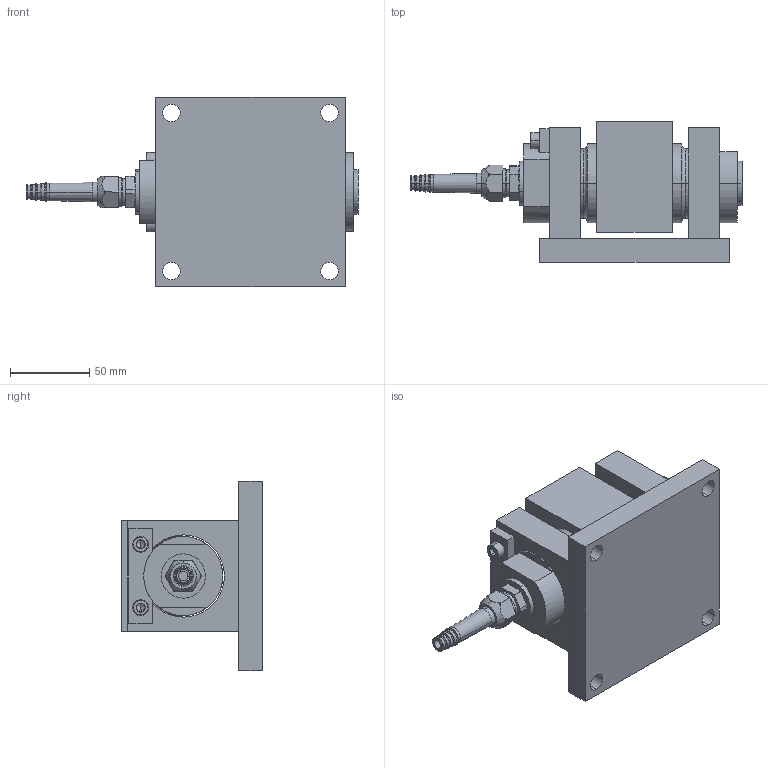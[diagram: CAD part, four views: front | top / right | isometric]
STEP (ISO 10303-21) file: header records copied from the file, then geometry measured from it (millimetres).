
FILE_DESCRIPTION (( 'STEP AP214' ), '1' );
FILE_NAME ('KOM-1 100 kN Module.STEP', '2021-03-15T10:00:11', ( '' ), ( '' ), 'SwSTEP 2.0', 'SolidWorks 2021', '' );
FILE_SCHEMA (( 'AUTOMOTIVE_DESIGN' ));
Length unit declared in the file: millimetre
Products named in the file (10): KOM-1 100 kN Module; 4095971r4; M6x16 Insex; M26x1.5 - Lock - 600490r1; 6408213r1  Låsbleck KOM-1 10-100 kN; KOSD-40  100 kN; 5207861r1 Fäste KOM-1 100 kN; 5207862r2  Ok KOM-1  100 kN; pg 9 kabelförskruvning; M26x1.5 - Pg9 - 6369829
Assembly tree (10 placements, depth 3):
  KOM-1 100 kN Module
    5207861r1 Fäste KOM-1 100 kN
    5207862r2  Ok KOM-1  100 kN
    M6x16 Insex  x2
    KOSD-40  100 kN
      4095971r4
      M26x1.5 - Pg9 - 6369829
      M26x1.5 - Lock - 600490r1
      pg 9 kabelförskruvning
    6408213r1  Låsbleck KOM-1 10-100 kN
Bounding box: 210 x 89 x 120 mm (x, y, z)
Volume: 712879.2 mm3; surface area: 131983 mm2
Topology: 9 solids, 12 shells, 332 faces, 732 edges, 441 vertices
Faces by surface type: plane 113, cylinder 99, cone 72, bspline 30, torus 18
Entity records: 10308 total; most frequent: CARTESIAN_POINT 2052, DIRECTION 1563, ORIENTED_EDGE 1338, EDGE_CURVE 669, AXIS2_PLACEMENT_3D 645, VERTEX_POINT 414, EDGE_LOOP 359, CIRCLE 357
